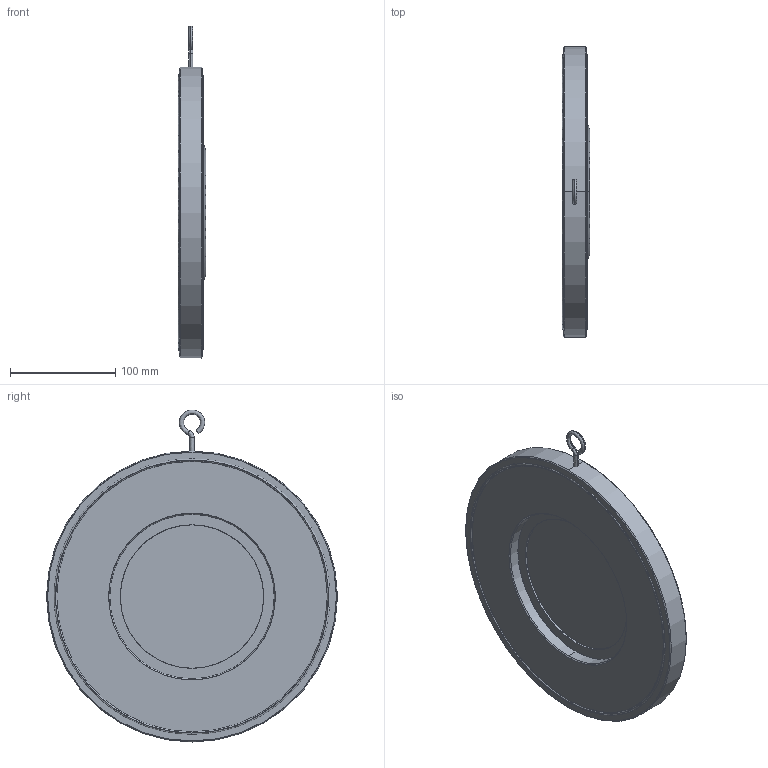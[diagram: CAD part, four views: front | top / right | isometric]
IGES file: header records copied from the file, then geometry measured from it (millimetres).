
Start section: SolidWorks IGES file using analytic representation for surfaces
Global section: file name: C:\Users\Administrator\Desktop\temp\0.IGS; native system: SolidWorks 2015; preprocessor: SolidWorks 2015; author: Administrator; date: 170404.091716; units: millimetre
Bounding box: 26.5 x 276 x 315 mm (x, y, z)
Surface area: 200538.3 mm2 (no closed solid volume)
Topology: 0 solids, 0 shells, 181 faces, 2793 edges, 2787 vertices
Faces by surface type: bspline 112, revolution 69
